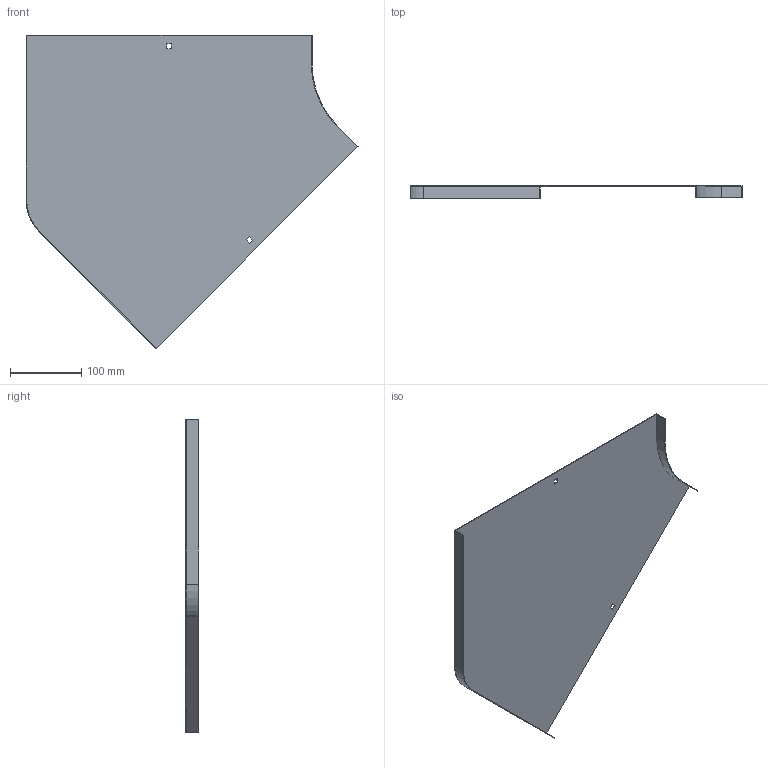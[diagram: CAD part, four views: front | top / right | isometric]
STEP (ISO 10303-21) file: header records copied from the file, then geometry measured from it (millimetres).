
FILE_DESCRIPTION (( 'STEP AP214' ), '1' );
FILE_NAME ('OP4_400.step', '2025-07-16T09:14:29', ( '' ), ( '' ), 'SwSTEP 2.0', 'SolidWorks 2023', '' );
FILE_SCHEMA (( 'AUTOMOTIVE_DESIGN' ));
Length unit declared in the file: millimetre
Products named in the file (1): OP4_400
Bounding box: 466.6 x 17 x 440.22 mm (x, y, z)
Volume: 151600.6 mm3; surface area: 304811.6 mm2
Topology: 1 solids, 1 shells, 26 faces, 72 edges, 48 vertices
Faces by surface type: plane 22, cylinder 4
Entity records: 855 total; most frequent: CARTESIAN_POINT 147, ORIENTED_EDGE 144, DIRECTION 134, EDGE_CURVE 72, LINE 64, VECTOR 64, VERTEX_POINT 48, AXIS2_PLACEMENT_3D 35
